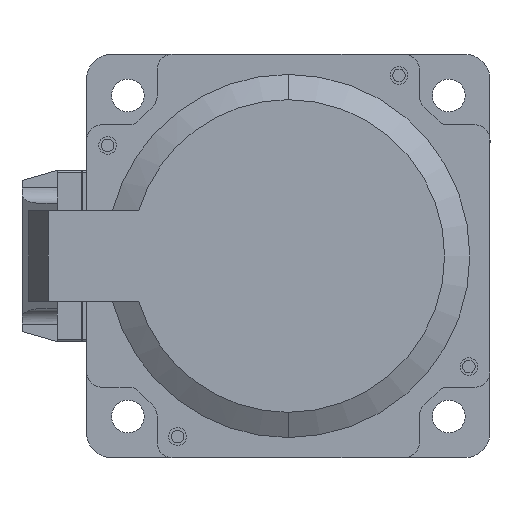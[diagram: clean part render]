
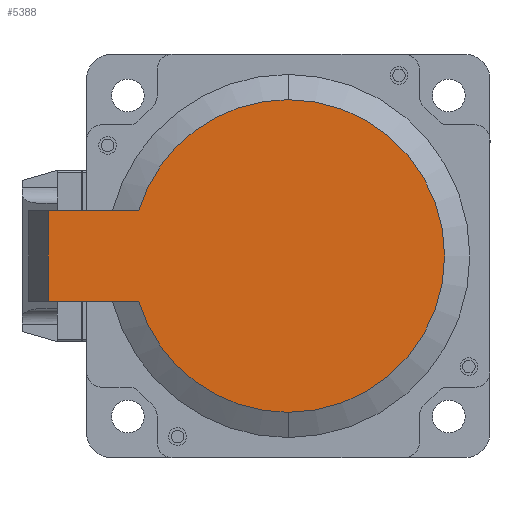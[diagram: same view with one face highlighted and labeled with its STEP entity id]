
A CAD part, left-side view. The second image highlights one B-rep face of the part: STEP entity #5388.
In plain terms, the highlighted planar face has unit normal (-1, 0, 0).
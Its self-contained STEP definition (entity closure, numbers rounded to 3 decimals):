
#73 = EDGE_CURVE ( 'NONE', #10733, #4166, #17512, .T. ) ;
#270 = AXIS2_PLACEMENT_3D ( 'NONE', #7981, #13295, #21953 ) ;
#799 = CARTESIAN_POINT ( 'NONE',  ( -56.934, 136.786, -9.459 ) ) ;
#1271 = VECTOR ( 'NONE', #4456, 1000. ) ;
#1397 = DIRECTION ( 'NONE',  ( 0., 0., -1. ) ) ;
#2111 = CARTESIAN_POINT ( 'NONE',  ( -56.934, 118.902, -9.459 ) ) ;
#2255 = CARTESIAN_POINT ( 'NONE',  ( -56.934, 136.786, -9.459 ) ) ;
#2332 = FACE_OUTER_BOUND ( 'NONE', #22427, .T. ) ;
#2499 = ORIENTED_EDGE ( 'NONE', *, *, #15874, .T. ) ;
#2554 = VERTEX_POINT ( 'NONE', #17375 ) ;
#2581 = ORIENTED_EDGE ( 'NONE', *, *, #15054, .F. ) ;
#3040 = CARTESIAN_POINT ( 'NONE',  ( -56.934, 136.786, 8.541 ) ) ;
#3392 = CARTESIAN_POINT ( 'NONE',  ( -56.934, 89.237, -31.459 ) ) ;
#3482 = DIRECTION ( 'NONE',  ( -1., 0., 0. ) ) ;
#3705 = AXIS2_PLACEMENT_3D ( 'NONE', #19041, #8643, #11968 ) ;
#4166 = VERTEX_POINT ( 'NONE', #3040 ) ;
#4363 = CIRCLE ( 'NONE', #3705, 31. ) ;
#4456 = DIRECTION ( 'NONE',  ( 0., 1., 0. ) ) ;
#5355 = LINE ( 'NONE', #16213, #1271 ) ;
#5388 = ADVANCED_FACE ( 'NONE', ( #2332 ), #13765, .T. ) ;
#6876 = ORIENTED_EDGE ( 'NONE', *, *, #9960, .T. ) ;
#7311 = CARTESIAN_POINT ( 'NONE',  ( -56.934, 89.237, -0.459 ) ) ;
#7981 = CARTESIAN_POINT ( 'NONE',  ( -56.934, 89.237, -0.459 ) ) ;
#8006 = CIRCLE ( 'NONE', #14773, 31. ) ;
#8643 = DIRECTION ( 'NONE',  ( -1., 0., 0. ) ) ;
#8811 = DIRECTION ( 'NONE',  ( -1., 0., 0. ) ) ;
#9033 = CIRCLE ( 'NONE', #270, 31. ) ;
#9161 = DIRECTION ( 'NONE',  ( 0., 1., 0. ) ) ;
#9960 = EDGE_CURVE ( 'NONE', #2554, #4166, #5355, .T. ) ;
#10407 = VERTEX_POINT ( 'NONE', #21635 ) ;
#10733 = VERTEX_POINT ( 'NONE', #799 ) ;
#11207 = ORIENTED_EDGE ( 'NONE', *, *, #21763, .T. ) ;
#11277 = CARTESIAN_POINT ( 'NONE',  ( -56.934, 89.237, -31.459 ) ) ;
#11346 = ORIENTED_EDGE ( 'NONE', *, *, #19442, .T. ) ;
#11913 = VERTEX_POINT ( 'NONE', #2111 ) ;
#11968 = DIRECTION ( 'NONE',  ( 0., 0., -1. ) ) ;
#12226 = VERTEX_POINT ( 'NONE', #11277 ) ;
#12585 = AXIS2_PLACEMENT_3D ( 'NONE', #3392, #3482, #1397 ) ;
#12886 = VECTOR ( 'NONE', #16845, 1000. ) ;
#13295 = DIRECTION ( 'NONE',  ( -1., 0., 0. ) ) ;
#13765 = PLANE ( 'NONE',  #12585 ) ;
#14773 = AXIS2_PLACEMENT_3D ( 'NONE', #7311, #8811, #19445 ) ;
#15054 = EDGE_CURVE ( 'NONE', #11913, #10733, #19137, .T. ) ;
#15404 = CARTESIAN_POINT ( 'NONE',  ( -56.934, 136.786, -9.459 ) ) ;
#15874 = EDGE_CURVE ( 'NONE', #12226, #10407, #9033, .T. ) ;
#16213 = CARTESIAN_POINT ( 'NONE',  ( -56.934, 136.786, 8.541 ) ) ;
#16845 = DIRECTION ( 'NONE',  ( 0., 0., 1. ) ) ;
#17248 = VECTOR ( 'NONE', #9161, 1000. ) ;
#17375 = CARTESIAN_POINT ( 'NONE',  ( -56.934, 118.902, 8.541 ) ) ;
#17512 = LINE ( 'NONE', #15404, #12886 ) ;
#19041 = CARTESIAN_POINT ( 'NONE',  ( -56.934, 89.237, -0.459 ) ) ;
#19137 = LINE ( 'NONE', #2255, #17248 ) ;
#19442 = EDGE_CURVE ( 'NONE', #11913, #12226, #4363, .T. ) ;
#19445 = DIRECTION ( 'NONE',  ( 0., 0., -1. ) ) ;
#21635 = CARTESIAN_POINT ( 'NONE',  ( -56.934, 89.237, 30.541 ) ) ;
#21763 = EDGE_CURVE ( 'NONE', #10407, #2554, #8006, .T. ) ;
#21953 = DIRECTION ( 'NONE',  ( 0., 0., -1. ) ) ;
#22427 = EDGE_LOOP ( 'NONE', ( #2581, #11346, #2499, #11207, #6876, #22450 ) ) ;
#22450 = ORIENTED_EDGE ( 'NONE', *, *, #73, .F. ) ;
